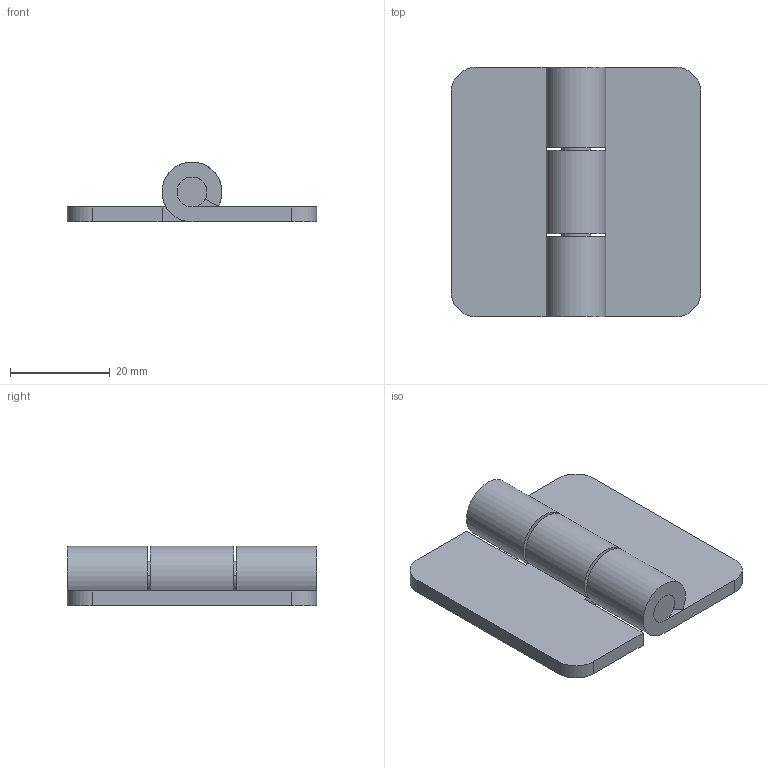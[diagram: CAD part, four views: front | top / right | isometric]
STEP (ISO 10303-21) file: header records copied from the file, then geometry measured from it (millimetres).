
FILE_DESCRIPTION(/* description */ (''),/* implementation_level */ '2;1');
FILE_NAME(/* name */ 'JL011-50',/* time_stamp */ '2024-10-12T16:10:24+08:00',/* author */ (''),/* organization */ (''),/* preprocessor_version */ 'ST-DEVELOPER v19.2',/* originating_system */ 'Rhino 8.5',/* authorisation */ '');
FILE_SCHEMA (('CONFIG_CONTROL_DESIGN'));
Length unit declared in the file: millimetre
Products named in the file (1): Document
Bounding box: 50 x 50 x 12 mm (x, y, z)
Volume: 11355.6 mm3; surface area: 8959.7 mm2
Topology: 3 solids, 3 shells, 34 faces, 84 edges, 56 vertices
Faces by surface type: plane 22, cylinder 12
Entity records: 1069 total; most frequent: CARTESIAN_POINT 297, ORIENTED_EDGE 168, EDGE_CURVE 84, DIRECTION 83, AXIS2_PLACEMENT_3D 57, VERTEX_POINT 56, B_SPLINE_CURVE_WITH_KNOTS 53, ADVANCED_FACE 34
